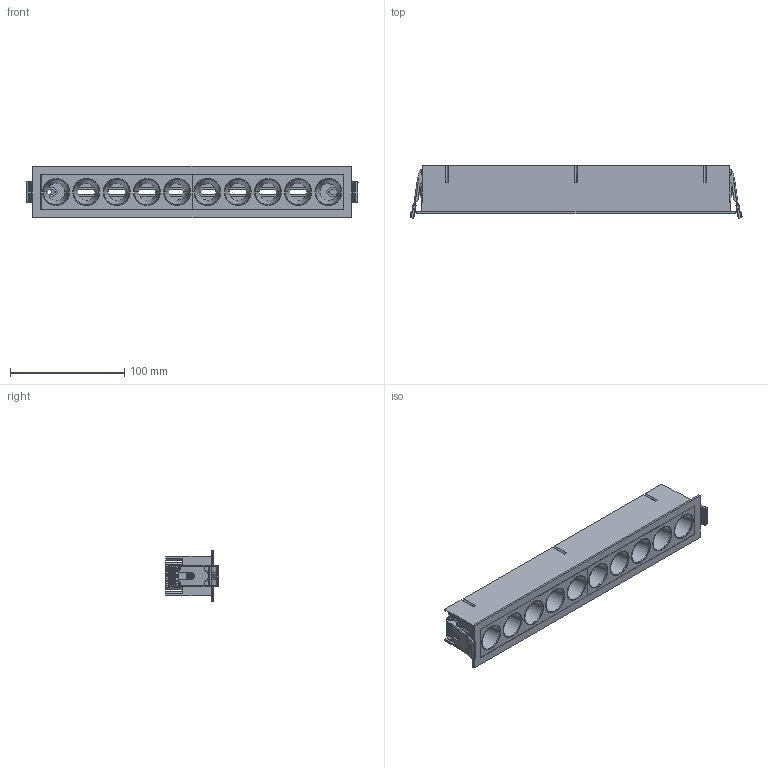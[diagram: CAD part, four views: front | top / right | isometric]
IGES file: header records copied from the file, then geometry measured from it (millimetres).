
Start section: SolidWorks IGES file using analytic representation for surfaces
Global section: file name: C:\Users\extension46\Desktop\3D-WEB\Invisible\Recessed\Recessed-10T.IGS; native system: SolidWorks 2023; preprocessor: SolidWorks 2023; author: y.wang; date: 240627.083344; units: millimetre
Bounding box: 290.75 x 46.09 x 45 mm (x, y, z)
Surface area: 103413.1 mm2 (no closed solid volume)
Topology: 0 solids, 0 shells, 912 faces, 10083 edges, 10067 vertices
Faces by surface type: bspline 516, revolution 396
